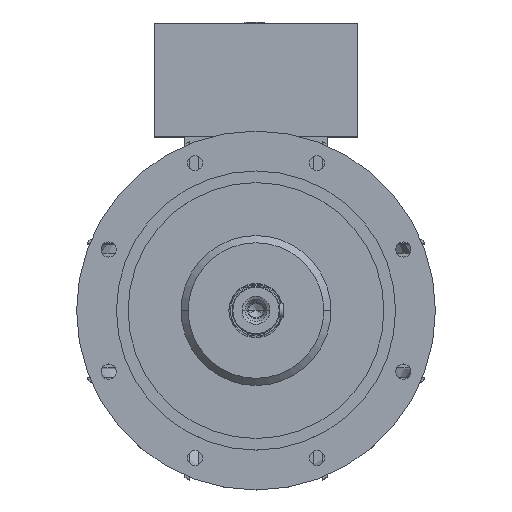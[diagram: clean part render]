
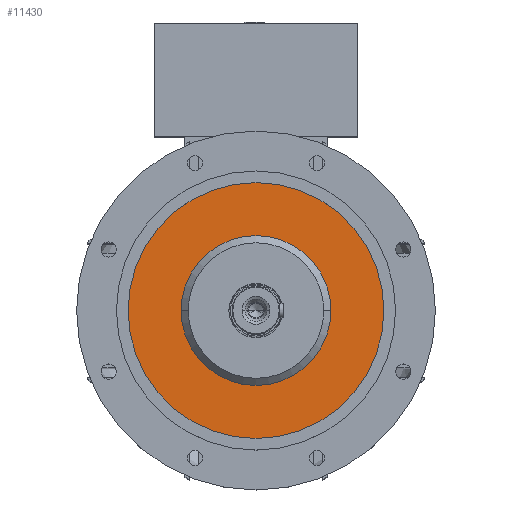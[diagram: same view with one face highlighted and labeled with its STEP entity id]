
A CAD part, top view. The second image highlights one B-rep face of the part: STEP entity #11430.
In plain terms, the highlighted planar face has unit normal (0, 0, 1).
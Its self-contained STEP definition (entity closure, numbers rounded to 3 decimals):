
#704 = CARTESIAN_POINT ( 'NONE',  ( 0., 0., 293.5 ) ) ;
#795 = ORIENTED_EDGE ( 'NONE', *, *, #22477, .T. ) ;
#900 = DIRECTION ( 'NONE',  ( 0., 0., -1. ) ) ;
#1412 = VERTEX_POINT ( 'NONE', #2557 ) ;
#1791 = AXIS2_PLACEMENT_3D ( 'NONE', #24634, #900, #14776 ) ;
#2557 = CARTESIAN_POINT ( 'NONE',  ( 160.417, 0., 293.5 ) ) ;
#3231 = CARTESIAN_POINT ( 'NONE',  ( 0., 160.417, 293.5 ) ) ;
#4085 = CARTESIAN_POINT ( 'NONE',  ( -160.417, 0., 293.5 ) ) ;
#4408 = AXIS2_PLACEMENT_3D ( 'NONE', #704, #14565, #20518 ) ;
#4472 = PLANE ( 'NONE',  #11585 ) ;
#6215 = EDGE_CURVE ( 'NONE', #1412, #23704, #6317, .T. ) ;
#6317 = CIRCLE ( 'NONE', #24105, 160.417 ) ;
#6723 = EDGE_CURVE ( 'NONE', #23704, #1412, #22032, .T. ) ;
#6748 = ORIENTED_EDGE ( 'NONE', *, *, #6215, .T. ) ;
#6839 = CIRCLE ( 'NONE', #4408, 94. ) ;
#7171 = FACE_BOUND ( 'NONE', #10961, .T. ) ;
#7458 = CIRCLE ( 'NONE', #1791, 94. ) ;
#7532 = ORIENTED_EDGE ( 'NONE', *, *, #6723, .T. ) ;
#7896 = DIRECTION ( 'NONE',  ( 0., 0., 1. ) ) ;
#8620 = CARTESIAN_POINT ( 'NONE',  ( 0., 0., 293.5 ) ) ;
#8704 = DIRECTION ( 'NONE',  ( -1., 0., 0. ) ) ;
#9124 = VERTEX_POINT ( 'NONE', #16090 ) ;
#10961 = EDGE_LOOP ( 'NONE', ( #795, #23411 ) ) ;
#11430 = ADVANCED_FACE ( 'NONE', ( #15500, #7171 ), #4472, .T. ) ;
#11585 = AXIS2_PLACEMENT_3D ( 'NONE', #3231, #24966, #24701 ) ;
#14565 = DIRECTION ( 'NONE',  ( 0., 0., -1. ) ) ;
#14776 = DIRECTION ( 'NONE',  ( -1., 0., 0. ) ) ;
#15336 = EDGE_LOOP ( 'NONE', ( #7532, #6748 ) ) ;
#15500 = FACE_OUTER_BOUND ( 'NONE', #15336, .T. ) ;
#16090 = CARTESIAN_POINT ( 'NONE',  ( 94., 0., 293.5 ) ) ;
#17010 = CARTESIAN_POINT ( 'NONE',  ( -94., 0., 293.5 ) ) ;
#18498 = EDGE_CURVE ( 'NONE', #9124, #21518, #6839, .T. ) ;
#18535 = DIRECTION ( 'NONE',  ( 0., 0., 1. ) ) ;
#20518 = DIRECTION ( 'NONE',  ( -1., 0., 0. ) ) ;
#21518 = VERTEX_POINT ( 'NONE', #17010 ) ;
#22032 = CIRCLE ( 'NONE', #22983, 160.417 ) ;
#22477 = EDGE_CURVE ( 'NONE', #21518, #9124, #7458, .T. ) ;
#22983 = AXIS2_PLACEMENT_3D ( 'NONE', #23617, #7896, #25605 ) ;
#23411 = ORIENTED_EDGE ( 'NONE', *, *, #18498, .T. ) ;
#23617 = CARTESIAN_POINT ( 'NONE',  ( 0., 0., 293.5 ) ) ;
#23704 = VERTEX_POINT ( 'NONE', #4085 ) ;
#24105 = AXIS2_PLACEMENT_3D ( 'NONE', #8620, #18535, #8704 ) ;
#24634 = CARTESIAN_POINT ( 'NONE',  ( 0., 0., 293.5 ) ) ;
#24701 = DIRECTION ( 'NONE',  ( 1., 0., 0. ) ) ;
#24966 = DIRECTION ( 'NONE',  ( 0., 0., 1. ) ) ;
#25605 = DIRECTION ( 'NONE',  ( -1., 0., 0. ) ) ;
